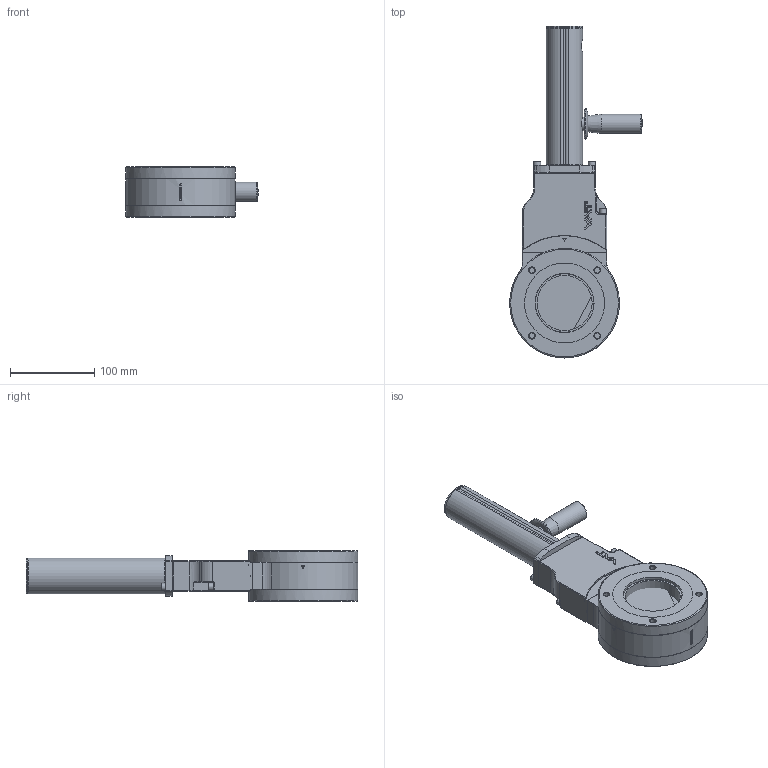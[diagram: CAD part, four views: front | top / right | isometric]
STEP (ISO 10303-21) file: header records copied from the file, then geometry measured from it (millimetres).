
FILE_DESCRIPTION(/* description */ (''),/* implementation_level */ '2;1');
FILE_NAME(/* name */ '1096050795_203.stp',/* time_stamp */ '2014-11-04T12:30:09+01:00',/* author */ (''),/* organization */ (''),/* preprocessor_version */ 'ST-DEVELOPER v11',/* originating_system */ 'SIEMENS PLM Software NX 7.5',/* authorisation */ '');
FILE_SCHEMA (('AP203_CONFIGURATION_CONTROLLED_3D_DESIGN_OF_MECHANICAL_PARTS_AND_ASSEMBLIES_MIM_LF'));
Length unit declared in the file: millimetre
Products named in the file (16): 259819.5; 258827.2; 258826.1; 249686.1; N-6252-038_001.1; 249618.1; 258938.3; 249701.1; 224797.1; 253166; 253165.8_19134ID; n-6134-407; 224794.1; 260480; 260488_NX-ARRAGMNTCLOSE MB, Innenteile+Stange unterdrueckt; 260493.14
Assembly tree (19 placements, depth 4):
  260493.14
    224794.1  x2
    n-6134-407  x2
    253165.8_19134ID
    253166
    224797.1  x2
    260488_NX-ARRAGMNTCLOSE MB, Innenteile+Stange unterdrueckt
      249701.1
      258938.3
      249618.1
      N-6252-038_001.1
      260480
        249686.1  x2
        258826.1
        258827.2
        259819.5
Bounding box: 157.8 x 394.6 x 60 mm (x, y, z)
Volume: 885679.8 mm3; surface area: 202995.2 mm2
Topology: 17 solids, 17 shells, 983 faces, 2430 edges, 1561 vertices
Faces by surface type: plane 486, cylinder 294, cone 71, torus 58, extrusion 49, bspline 20, sphere 5
Full cylindrical faces by diameter (mm): 4.2 x5, 5 x8, 5.1 x3, 5.3 x2, 5.5 x2, 6.8 x8, 8.5 x5, 9 x2, 10.2 x1, 11 x1, 14 x2, 14.65 x1, 16 x4, 18.17 x1, 18.216 x1, 23 x1, 28 x1, 28.2 x1, 35 x1, 37 x4, 38.05 x1, 38.125 x1, 42 x1, 65.5 x3, 70.1 x2, 130 x2
Entity records: 32985 total; most frequent: CARTESIAN_POINT 8388, ORIENTED_EDGE 4416, DIRECTION 4267, EDGE_CURVE 2208, AXIS2_PLACEMENT_3D 1619, VERTEX_POINT 1480, EDGE_LOOP 1156, VECTOR 1029
